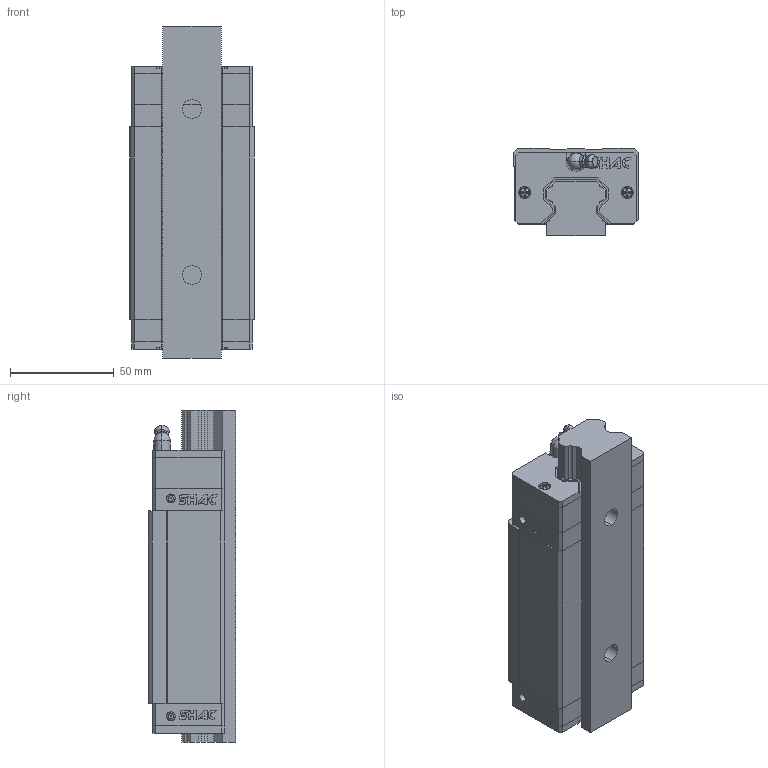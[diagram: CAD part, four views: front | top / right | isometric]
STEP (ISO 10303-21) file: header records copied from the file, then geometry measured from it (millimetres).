
FILE_DESCRIPTION (( 'STEP AP214' ), '1' );
FILE_NAME ('STP_GHL30HA_(E2)自润式_(R)上锁式_刮油片＋防尘条_160_160_1_GHL30HA_GHL30HA.step', '2020-06-27T03:08:34', ( 'IT Division' ), ( 'IT' ), 'SwSTEP 2.0', 'SolidWorks 2016', '' );
FILE_SCHEMA (( 'AUTOMOTIVE_DESIGN' ));
Length unit declared in the file: millimetre
Products named in the file (3): STP_GHL30HA_(E2)自润式_(R)上锁式_刮油片＋防尘条_160_160_1_GHL30HA_GHL30HA_1; STP_GHL30HA_(E2)自润式_(R)上锁式_刮油片＋防尘条_160_160_1_GHL30HA_GHL30HA_2; STP_GHL30HA_(E2)自润式_(R)上锁式_刮油片＋防尘条_160_160_1_GHL30HA_GHL30HA
Assembly tree (2 placements, depth 2):
  STP_GHL30HA_(E2)自润式_(R)上锁式_刮油片＋防尘条_160_160_1_GHL30HA_GHL30HA
    STP_GHL30HA_(E2)自润式_(R)上锁式_刮油片＋防尘条_160_160_1_GHL30HA_GHL30HA_1
    STP_GHL30HA_(E2)自润式_(R)上锁式_刮油片＋防尘条_160_160_1_GHL30HA_GHL30HA_2
Bounding box: 60 x 42 x 160 mm (x, y, z)
Volume: 315519.8 mm3; surface area: 73018.9 mm2
Topology: 8 solids, 8 shells, 850 faces, 2277 edges, 1494 vertices
Faces by surface type: plane 626, cylinder 158, cone 31, torus 25, sphere 10
Entity records: 29299 total; most frequent: CARTESIAN_POINT 4788, ORIENTED_EDGE 4530, DIRECTION 4404, EDGE_CURVE 2265, LINE 1764, VECTOR 1764, VERTEX_POINT 1492, AXIS2_PLACEMENT_3D 1320
